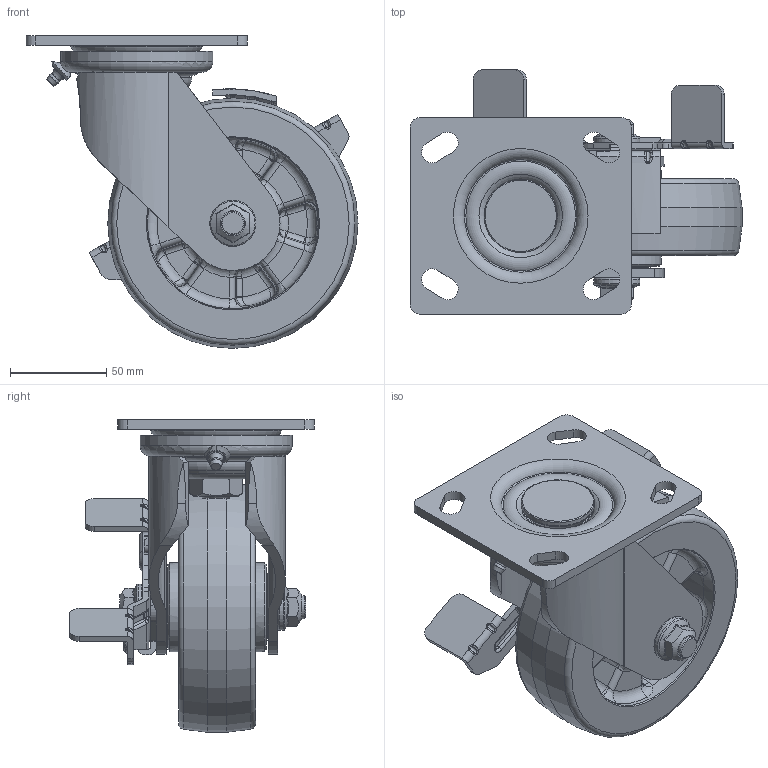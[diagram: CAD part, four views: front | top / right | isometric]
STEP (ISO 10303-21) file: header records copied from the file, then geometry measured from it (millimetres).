
FILE_DESCRIPTION(/* description */ (''),/* implementation_level */ '2;1');
FILE_NAME(/* name */ 'PM-130-BSF.step',/* time_stamp */ '2026-01-27T08:45:13+09:00',/* author */ (''),/* organization */ (''),/* preprocessor_version */ 'ST-DEVELOPER v20.1',/* originating_system */ 'Autodesk Translation Framework v14.24.0.0',/* authorisation */ '');
FILE_SCHEMA (('AUTOMOTIVE_DESIGN { 1 0 10303 214 3 1 1 }'));
Products named in the file (1): PM-130B-SF
Bounding box: 172.5 x 127 x 162.5 mm (x, y, z)
Volume: 608387.5 mm3; surface area: 196869.2 mm2
Topology: 29 solids, 29 shells, 1095 faces, 2780 edges, 1677 vertices
Faces by surface type: bspline 327, cylinder 264, plane 229, torus 154, cone 63, sphere 58
Full cylindrical faces by diameter (mm): 12 x1, 16 x2, 18 x3, 21.5 x3, 24 x2, 30.5 x4, 35 x2, 35.18 x2, 38 x1, 41.192 x1, 61.087 x1, 69 x1, 79 x1, 130 x1
Entity records: 74248 total; most frequent: CARTESIAN_POINT 49300, ORIENTED_EDGE 5374, DIRECTION 5000, EDGE_CURVE 2687, AXIS2_PLACEMENT_3D 2146, VERTEX_POINT 1707, EDGE_LOOP 1182, CIRCLE 1181
